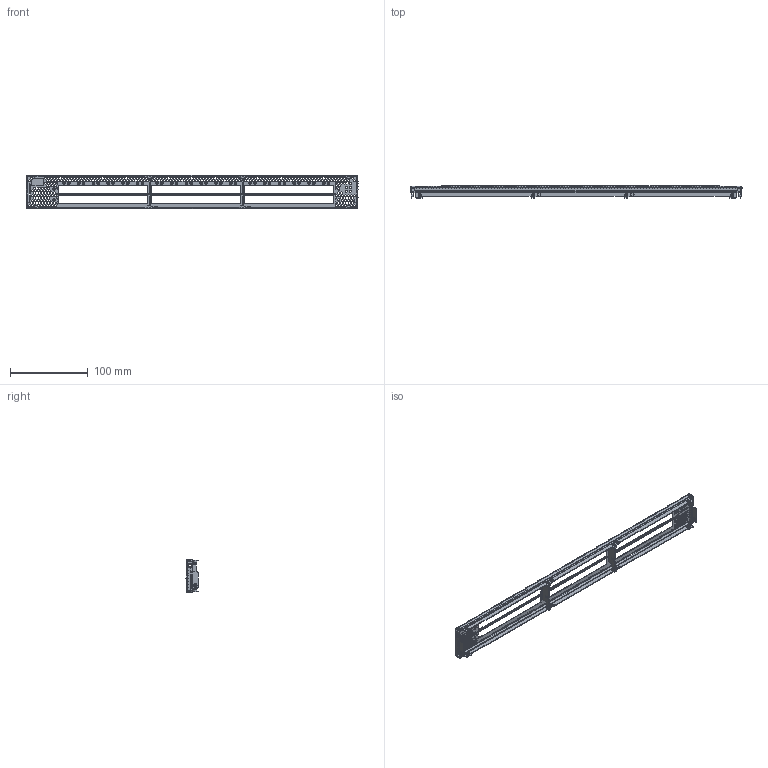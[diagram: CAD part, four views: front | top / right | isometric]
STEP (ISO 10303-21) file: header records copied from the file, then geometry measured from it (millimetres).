
FILE_DESCRIPTION((''),'2;1');
FILE_NAME('S:\Mechanic\NEPTUNE\HELP FILES\MEC007939_03 .stp','2014-12-04T15:16:53',('elhananb'),(''),'Autodesk Inventor 2013','Autodesk Inventor 2013','');
FILE_SCHEMA(('AUTOMOTIVE_DESIGN { 1 0 10303 214 1 1 1 1 }'));
Length unit declared in the file: millimetre
Products named in the file (6): MEC007939_NEPTUNE PANEL CONNECTORS RIVETING ; MEC007564_NEPTUNE PANEL CONNECTORS; PEM Miniature Self-Clinching Fasteners U,FEX,FEOX - Inch FEOX-440; MEC008045_FRONT BRACKET; RIVET SOLID 3_32 DIA countersunk (MS20426 AD3)
Assembly tree (22 placements, depth 3):
  MEC007939_NEPTUNE PANEL CONNECTORS RIVETING 
    MEC007564_NEPTUNE PANEL CONNECTORS
      MEC007564_NEPTUNE PANEL CONNECTORS
      PEM Miniature Self-Clinching Fasteners U,FEX,FEOX - Inch FEOX-440  x10
    MEC008045_FRONT BRACKET  x2
    RIVET SOLID 3_32 DIA countersunk (MS20426 AD3)  x8
Bounding box: 428 x 15.49 x 43.6 mm (x, y, z)
Volume: 20037.4 mm3; surface area: 50285.6 mm2
Topology: 21 solids, 21 shells, 7471 faces, 21094 edges, 13368 vertices
Faces by surface type: plane 5874, cylinder 775, bspline 721, cone 99, torus 2
Full cylindrical faces by diameter (mm): 0.3 x2, 2 x36, 2.156 x10, 2.5 x12, 2.6 x5, 3 x4, 3.6 x2, 3.683 x10, 3.835 x10, 4.343 x10, 4.4 x10, 4.55 x16, 4.877 x10
Entity records: 238226 total; most frequent: CARTESIAN_POINT 50546, ORIENTED_EDGE 40916, DIRECTION 33619, EDGE_CURVE 20458, VECTOR 17567, LINE 17567, VERTEX_POINT 13015, EDGE_LOOP 8361
